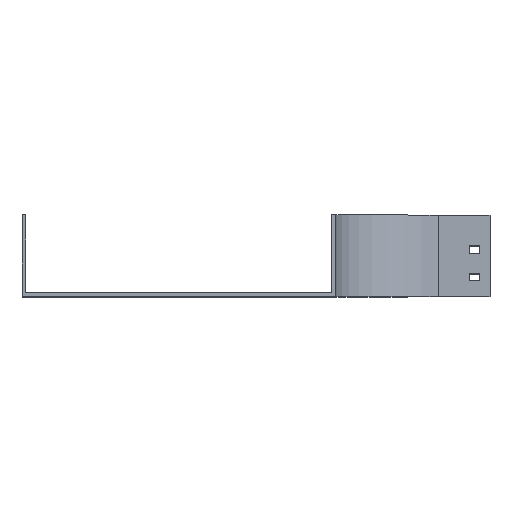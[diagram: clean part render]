
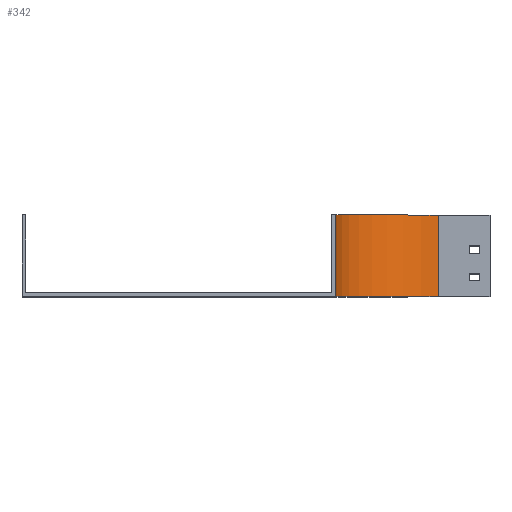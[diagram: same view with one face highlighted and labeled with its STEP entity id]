
A CAD part, top view. The second image highlights one B-rep face of the part: STEP entity #342.
In plain terms, the highlighted cylindrical face has radius 100 mm (diameter 200 mm), a partial arc.
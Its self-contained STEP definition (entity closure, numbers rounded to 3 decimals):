
#33 = VERTEX_POINT ( 'NONE', #859 ) ;
#144 = ORIENTED_EDGE ( 'NONE', *, *, #1594, .T. ) ;
#148 = LINE ( 'NONE', #2695, #1637 ) ;
#149 = EDGE_CURVE ( 'NONE', #780, #878, #2367, .T. ) ;
#196 = FACE_OUTER_BOUND ( 'NONE', #2057, .T. ) ;
#325 = CARTESIAN_POINT ( 'NONE',  ( 0., 0., -100. ) ) ;
#342 = ADVANCED_FACE ( 'NONE', ( #196 ), #2513, .F. ) ;
#732 = CARTESIAN_POINT ( 'NONE',  ( 0., 79., -100. ) ) ;
#737 = DIRECTION ( 'NONE',  ( 0., -1., 0. ) ) ;
#780 = VERTEX_POINT ( 'NONE', #1309 ) ;
#859 = CARTESIAN_POINT ( 'NONE',  ( -100., 0., 0. ) ) ;
#871 = AXIS2_PLACEMENT_3D ( 'NONE', #2081, #1896, #2749 ) ;
#878 = VERTEX_POINT ( 'NONE', #732 ) ;
#916 = DIRECTION ( 'NONE',  ( 0., 0., -1. ) ) ;
#1309 = CARTESIAN_POINT ( 'NONE',  ( -100., 79., 0. ) ) ;
#1528 = DIRECTION ( 'NONE',  ( 0., 0., -1. ) ) ;
#1554 = AXIS2_PLACEMENT_3D ( 'NONE', #1950, #2177, #916 ) ;
#1582 = DIRECTION ( 'NONE',  ( 0., -1., 0. ) ) ;
#1594 = EDGE_CURVE ( 'NONE', #780, #33, #148, .T. ) ;
#1615 = DIRECTION ( 'NONE',  ( 0., -1., 0. ) ) ;
#1637 = VECTOR ( 'NONE', #1615, 1000. ) ;
#1743 = CARTESIAN_POINT ( 'NONE',  ( 0., 79., 0. ) ) ;
#1758 = CARTESIAN_POINT ( 'NONE',  ( 0., 79., -100. ) ) ;
#1766 = CIRCLE ( 'NONE', #1554, 100. ) ;
#1896 = DIRECTION ( 'NONE',  ( 0., -1., 0. ) ) ;
#1905 = VERTEX_POINT ( 'NONE', #325 ) ;
#1950 = CARTESIAN_POINT ( 'NONE',  ( 0., 0., 0. ) ) ;
#2014 = ORIENTED_EDGE ( 'NONE', *, *, #149, .F. ) ;
#2057 = EDGE_LOOP ( 'NONE', ( #2274, #2633, #2014, #144 ) ) ;
#2071 = EDGE_CURVE ( 'NONE', #33, #1905, #1766, .T. ) ;
#2081 = CARTESIAN_POINT ( 'NONE',  ( 0., 79., 0. ) ) ;
#2177 = DIRECTION ( 'NONE',  ( 0., -1., 0. ) ) ;
#2274 = ORIENTED_EDGE ( 'NONE', *, *, #2071, .T. ) ;
#2317 = EDGE_CURVE ( 'NONE', #878, #1905, #2385, .T. ) ;
#2367 = CIRCLE ( 'NONE', #2461, 100. ) ;
#2385 = LINE ( 'NONE', #1758, #2519 ) ;
#2461 = AXIS2_PLACEMENT_3D ( 'NONE', #1743, #737, #1528 ) ;
#2513 = CYLINDRICAL_SURFACE ( 'NONE', #871, 100. ) ;
#2519 = VECTOR ( 'NONE', #1582, 1000. ) ;
#2633 = ORIENTED_EDGE ( 'NONE', *, *, #2317, .F. ) ;
#2695 = CARTESIAN_POINT ( 'NONE',  ( -100., 79., 0. ) ) ;
#2749 = DIRECTION ( 'NONE',  ( 0., 0., -1. ) ) ;
